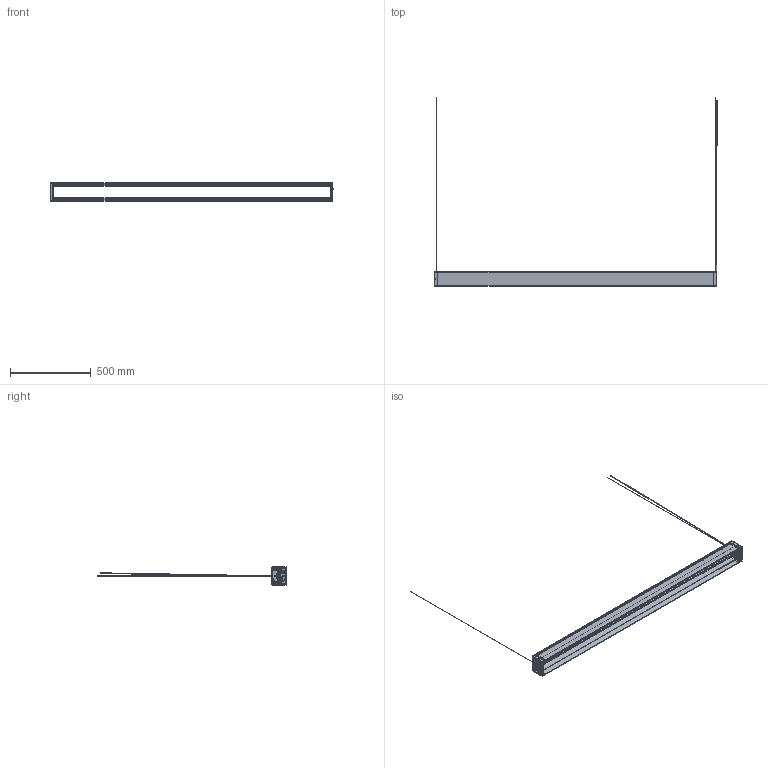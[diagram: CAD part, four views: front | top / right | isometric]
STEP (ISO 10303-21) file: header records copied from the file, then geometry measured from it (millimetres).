
FILE_DESCRIPTION (( 'STEP AP203' ), '1' );
FILE_NAME ('800TRULWW521_TRU SOSPESA UP-UP.STEP', '2016-09-15T15:54:18', ( '' ), ( '' ), 'SwSTEP 2.0', 'SolidWorks 2016', '' );
FILE_SCHEMA (( 'CONFIG_CONTROL_DESIGN' ));
Length unit declared in the file: millimetre
Products named in the file (11): 010TRU700320; 019COM000081; 051TRU700120; 082COM000388; 052TRU701000_Testata TRU SOSPESA UP-UP_052TRU701200_up-up  foro; 800TRULWW521_TRU SOSPESA UP-UP; vite tc m3x16 croce; 052TRU701400_Tappo TRU SOSPESA_052TRU701400; MORSETTO PA 35 2_POLI_1 polo; 052TRU701000_Testata TRU SOSPESA UP-UP_052TRU701300_up-up doppio foro; 093COM000003 - STRISCIA LED TRU
Assembly tree (23 placements, depth 2):
  800TRULWW521_TRU SOSPESA UP-UP
    051TRU700120  x2
    052TRU701000_Testata TRU SOSPESA UP-UP_052TRU701200_up-up  foro
    vite tc m3x16 croce  x8
    052TRU701400_Tappo TRU SOSPESA_052TRU701400  x2
    MORSETTO PA 35 2_POLI_1 polo  x2
    052TRU701000_Testata TRU SOSPESA UP-UP_052TRU701300_up-up doppio foro
    093COM000003 - STRISCIA LED TRU  x2
    010TRU700320  x2
    019COM000081  x2
    082COM000388
Bounding box: 1752.59 x 1169.21 x 112 mm (x, y, z)
Topology: 21 solids, 41 shells, 7980 faces, 21100 edges, 13907 vertices
Faces by surface type: plane 6512, cylinder 884, bspline 372, torus 96, cone 72, sphere 44
Entity records: 222794 total; most frequent: CARTESIAN_POINT 76892, ORIENTED_EDGE 31786, DIRECTION 26401, EDGE_CURVE 15873, LINE 12585, VECTOR 12585, VERTEX_POINT 10447, AXIS2_PLACEMENT_3D 6908
